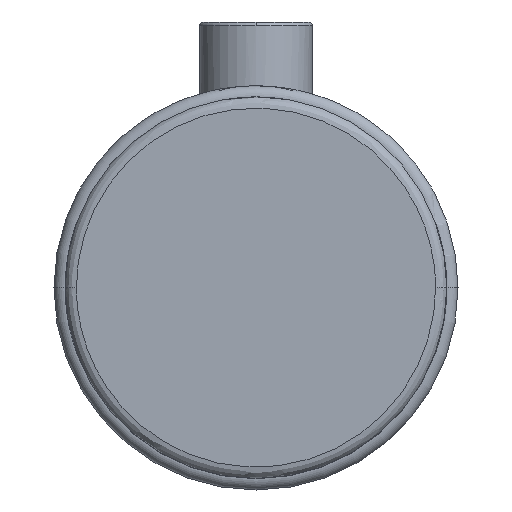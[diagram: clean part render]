
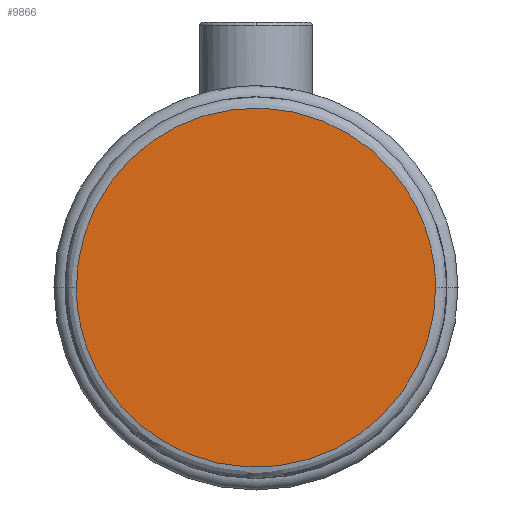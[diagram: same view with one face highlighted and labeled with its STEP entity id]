
A CAD part, top view. The second image highlights one B-rep face of the part: STEP entity #9866.
In plain terms, the highlighted planar face has unit normal (0, 0, 1).
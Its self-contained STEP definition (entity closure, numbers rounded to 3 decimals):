
#27 = EDGE_LOOP ( 'NONE', ( #12281, #7197 ) ) ;
#142 = AXIS2_PLACEMENT_3D ( 'NONE', #5209, #2216, #9321 ) ;
#149 = CARTESIAN_POINT ( 'NONE',  ( 47.8, -95.6, 50. ) ) ;
#562 = EDGE_CURVE ( 'NONE', #12723, #9518, #1895, .T. ) ;
#1895 =( BOUNDED_CURVE ( )  B_SPLINE_CURVE ( 3, ( #9060, #5971, #4958, #10087 ),
 .UNSPECIFIED., .F., .F. ) 
 B_SPLINE_CURVE_WITH_KNOTS ( ( 4, 4 ),
 ( 0.75, 1.25 ),
 .UNSPECIFIED. ) 
 CURVE ( )  GEOMETRIC_REPRESENTATION_ITEM ( )  RATIONAL_B_SPLINE_CURVE ( ( 1., 0.333, 0.333, 1. ) ) 
 REPRESENTATION_ITEM ( '' )  );
#2216 = DIRECTION ( 'NONE',  ( 0., 0., 1. ) ) ;
#2609 = CARTESIAN_POINT ( 'NONE',  ( 47.8, 0., 50. ) ) ;
#3175 = CARTESIAN_POINT ( 'NONE',  ( -47.8, 0., 50. ) ) ;
#4958 = CARTESIAN_POINT ( 'NONE',  ( 47.8, 95.6, 50. ) ) ;
#5024 =( BOUNDED_CURVE ( )  B_SPLINE_CURVE ( 3, ( #7213, #149, #9267, #3175 ),
 .UNSPECIFIED., .F., .T. ) 
 B_SPLINE_CURVE_WITH_KNOTS ( ( 4, 4 ),
 ( 0.25, 0.75 ),
 .UNSPECIFIED. ) 
 CURVE ( )  GEOMETRIC_REPRESENTATION_ITEM ( )  RATIONAL_B_SPLINE_CURVE ( ( 1., 0.333, 0.333, 1. ) ) 
 REPRESENTATION_ITEM ( '' )  );
#5209 = CARTESIAN_POINT ( 'NONE',  ( 0., 25.4, 50. ) ) ;
#5971 = CARTESIAN_POINT ( 'NONE',  ( -47.8, 95.6, 50. ) ) ;
#7197 = ORIENTED_EDGE ( 'NONE', *, *, #562, .F. ) ;
#7213 = CARTESIAN_POINT ( 'NONE',  ( 47.8, 0., 50. ) ) ;
#8269 = CARTESIAN_POINT ( 'NONE',  ( -47.8, 0., 50. ) ) ;
#8278 = PLANE ( 'NONE',  #142 ) ;
#9060 = CARTESIAN_POINT ( 'NONE',  ( -47.8, 0., 50. ) ) ;
#9267 = CARTESIAN_POINT ( 'NONE',  ( -47.8, -95.6, 50. ) ) ;
#9321 = DIRECTION ( 'NONE',  ( 0., -1., 0. ) ) ;
#9518 = VERTEX_POINT ( 'NONE', #2609 ) ;
#9580 = FACE_OUTER_BOUND ( 'NONE', #27, .T. ) ;
#9866 = ADVANCED_FACE ( 'NONE', ( #9580 ), #8278, .T. ) ;
#10087 = CARTESIAN_POINT ( 'NONE',  ( 47.8, 0., 50. ) ) ;
#12281 = ORIENTED_EDGE ( 'NONE', *, *, #12529, .F. ) ;
#12529 = EDGE_CURVE ( 'NONE', #9518, #12723, #5024, .T. ) ;
#12723 = VERTEX_POINT ( 'NONE', #8269 ) ;
